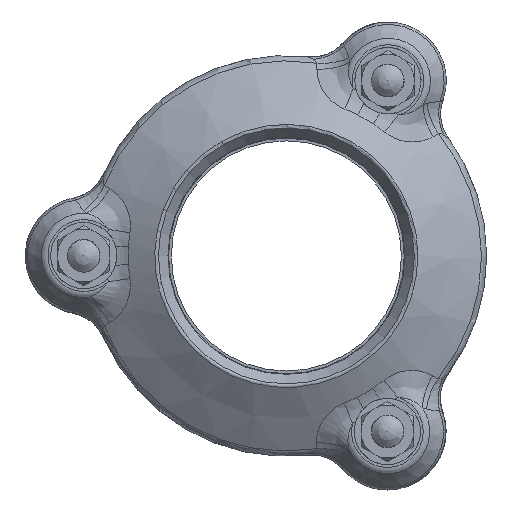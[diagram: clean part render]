
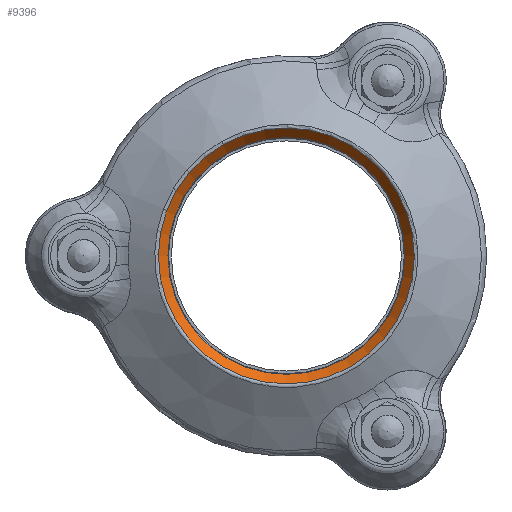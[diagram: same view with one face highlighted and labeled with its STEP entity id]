
A CAD part, left-side view. The second image highlights one B-rep face of the part: STEP entity #9396.
In plain terms, the highlighted conical face has half-angle 37 degrees and reference radius 4.873 mm.
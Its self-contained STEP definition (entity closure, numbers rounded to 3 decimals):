
#9362=CARTESIAN_POINT('',(-182.281,-37.236,21.408));
#9363=VERTEX_POINT('',#9362);
#9364=CARTESIAN_POINT('',(-182.281,0.,0.));
#9365=DIRECTION('',(-1.,0.,0.));
#9366=DIRECTION('',(0.,0.498,0.867));
#9367=AXIS2_PLACEMENT_3D('',#9364,#9365,#9366);
#9368=CIRCLE('',#9367,42.951);
#9369=EDGE_CURVE('',#9363,#9363,#9368,.T.);
#9377=CARTESIAN_POINT('',(-131.749,0.,0.));
#9378=DIRECTION('',(-1.0,0.0,0.0));
#9379=DIRECTION('',(0.0,-0.867,0.498));
#9380=AXIS2_PLACEMENT_3D('',#9377,#9378,#9379);
#9381=CONICAL_SURFACE('',#9380,4.873,37.);
#9382=ORIENTED_EDGE('',*,*,#9369,.F.);
#9383=EDGE_LOOP('',(#9382));
#9384=FACE_OUTER_BOUND('',#9383,.T.);
#9385=CARTESIAN_POINT('',(-186.871,-40.234,23.132));
#9386=VERTEX_POINT('',#9385);
#9387=CARTESIAN_POINT('',(-186.871,0.,0.));
#9388=DIRECTION('',(-1.0,0.,0.));
#9389=DIRECTION('',(0.,0.498,0.867));
#9390=AXIS2_PLACEMENT_3D('',#9387,#9388,#9389);
#9391=CIRCLE('',#9390,46.41);
#9392=EDGE_CURVE('',#9386,#9386,#9391,.T.);
#9393=ORIENTED_EDGE('',*,*,#9392,.T.);
#9394=EDGE_LOOP('',(#9393));
#9395=FACE_BOUND('',#9394,.T.);
#9396=ADVANCED_FACE('',(#9384,#9395),#9381,.F.);
